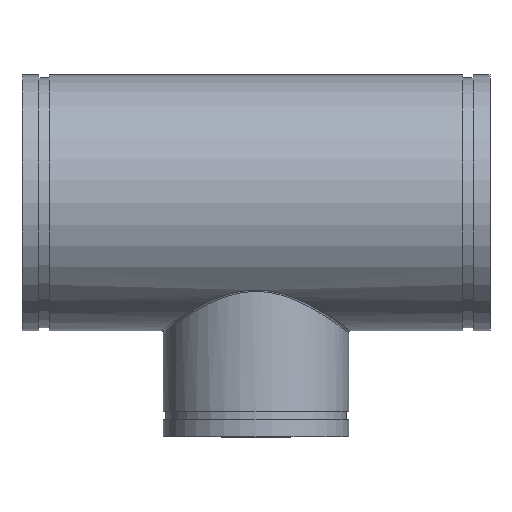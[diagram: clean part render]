
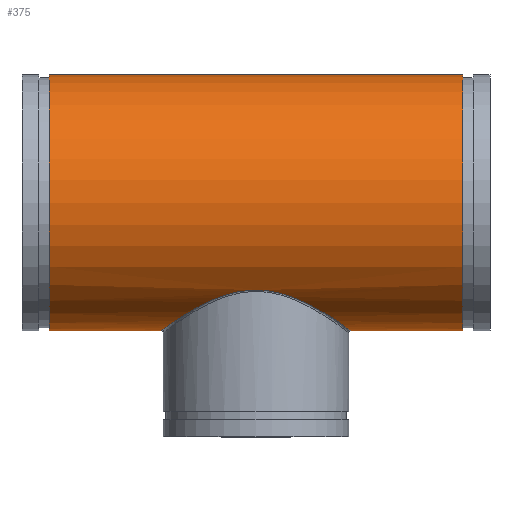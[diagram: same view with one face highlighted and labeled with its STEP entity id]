
A CAD part, top view. The second image highlights one B-rep face of the part: STEP entity #375.
In plain terms, the highlighted cylindrical face has radius 194.31 mm (diameter 388.62 mm), a full revolution.
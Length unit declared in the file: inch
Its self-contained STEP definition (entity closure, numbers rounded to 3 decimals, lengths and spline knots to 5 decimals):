
#54=FACE_BOUND('',#119,.T.);
#65=LINE('',#903,#76);
#76=VECTOR('',#483,7.65);
#87=CYLINDRICAL_SURFACE('',#415,7.65);
#98=FACE_OUTER_BOUND('',#118,.T.);
#118=EDGE_LOOP('',(#266,#267,#268,#269));
#119=EDGE_LOOP('',(#270));
#150=B_SPLINE_CURVE_WITH_KNOTS('',3,(#859,#860,#861,#862,#863,#864,#865,
#866,#867,#868,#869,#870,#871,#872,#873,#874,#875,#876,#877,#878,#879,#880,
#881,#882,#883,#884,#885,#886,#887,#888,#889,#890,#891,#892,#893,#894,#895,
#896,#897,#898),.UNSPECIFIED.,.T.,.F.,(4,1,1,1,1,1,1,1,1,1,1,1,1,1,1,1,
1,1,1,1,1,1,1,1,1,1,1,1,1,1,1,1,1,1,1,1,1,4),(-89.44633,-87.84908,
-86.25182,-83.05731,-79.8628,-76.66829,
-72.40894,-70.27926,-68.14959,-67.08475,
-66.01991,-63.89024,-61.76056,-59.63089,
-55.37154,-51.11219,-48.98252,-46.85284,
-44.72317,-42.59349,-40.46382,-38.33414,
-34.07479,-29.81544,-26.97588,-25.5561,-23.42642,
-22.36158,-21.82917,-21.29675,-17.0374,
-15.61761,-12.77805,-9.58354,-6.38902,
-3.19451,-1.59726,0.),.UNSPECIFIED.);
#154=CIRCLE('',#416,7.65);
#155=CIRCLE('',#417,7.65);
#182=VERTEX_POINT('',#811);
#185=VERTEX_POINT('',#900);
#186=VERTEX_POINT('',#902);
#219=EDGE_CURVE('',#182,#182,#150,.T.);
#220=EDGE_CURVE('',#185,#185,#154,.T.);
#221=EDGE_CURVE('',#185,#186,#65,.T.);
#222=EDGE_CURVE('',#186,#186,#155,.T.);
#266=ORIENTED_EDGE('',*,*,#220,.T.);
#267=ORIENTED_EDGE('',*,*,#221,.T.);
#268=ORIENTED_EDGE('',*,*,#222,.T.);
#269=ORIENTED_EDGE('',*,*,#221,.F.);
#270=ORIENTED_EDGE('',*,*,#219,.F.);
#375=ADVANCED_FACE('',(#98,#54),#87,.T.);
#415=AXIS2_PLACEMENT_3D('',#899,#479,#480);
#416=AXIS2_PLACEMENT_3D('',#901,#481,#482);
#417=AXIS2_PLACEMENT_3D('',#904,#484,#485);
#479=DIRECTION('center_axis',(-1.,0.,0.));
#480=DIRECTION('ref_axis',(0.,-1.,0.));
#481=DIRECTION('center_axis',(1.,0.,0.));
#482=DIRECTION('ref_axis',(0.,-1.,0.));
#483=DIRECTION('',(1.,0.,0.));
#484=DIRECTION('center_axis',(-1.,0.,0.));
#485=DIRECTION('ref_axis',(0.,-1.,0.));
#811=CARTESIAN_POINT('',(0.,-5.22916,-5.58376));
#859=CARTESIAN_POINT('Ctrl Pts',(0.,-5.22916,
-5.58376));
#860=CARTESIAN_POINT('Ctrl Pts',(0.22189,-5.22916,-5.58376));
#861=CARTESIAN_POINT('Ctrl Pts',(0.66547,-5.25683,-5.55806));
#862=CARTESIAN_POINT('Ctrl Pts',(1.52836,-5.41437,-5.40707));
#863=CARTESIAN_POINT('Ctrl Pts',(2.5256,-5.76154,-5.05005));
#864=CARTESIAN_POINT('Ctrl Pts',(3.56307,-6.27982,-4.4006));
#865=CARTESIAN_POINT('Ctrl Pts',(4.53328,-6.86146,-3.45832));
#866=CARTESIAN_POINT('Ctrl Pts',(5.18638,-7.30434,-2.38719));
#867=CARTESIAN_POINT('Ctrl Pts',(5.54249,-7.55486,-1.29954));
#868=CARTESIAN_POINT('Ctrl Pts',(5.65762,-7.63757,-0.58244));
#869=CARTESIAN_POINT('Ctrl Pts',(5.68077,-7.65413,-0.00006));
#870=CARTESIAN_POINT('Ctrl Pts',(5.65771,-7.63759,0.58205));
#871=CARTESIAN_POINT('Ctrl Pts',(5.54235,-7.55488,1.29967));
#872=CARTESIAN_POINT('Ctrl Pts',(5.27582,-7.36706,2.11454));
#873=CARTESIAN_POINT('Ctrl Pts',(4.76894,-7.02095,3.11374));
#874=CARTESIAN_POINT('Ctrl Pts',(3.89506,-6.46104,4.16472));
#875=CARTESIAN_POINT('Ctrl Pts',(2.77042,-5.86757,4.92589));
#876=CARTESIAN_POINT('Ctrl Pts',(1.7313,-5.4819,5.33976));
#877=CARTESIAN_POINT('Ctrl Pts',(0.88743,-5.27911,5.5376));
#878=CARTESIAN_POINT('Ctrl Pts',(0.00001,-5.20405,
5.60691));
#879=CARTESIAN_POINT('Ctrl Pts',(-0.88737,-5.27908,5.53762));
#880=CARTESIAN_POINT('Ctrl Pts',(-1.73125,-5.48185,5.33979));
#881=CARTESIAN_POINT('Ctrl Pts',(-2.77045,-5.86761,4.92586));
#882=CARTESIAN_POINT('Ctrl Pts',(-3.89485,-6.46078,4.16496));
#883=CARTESIAN_POINT('Ctrl Pts',(-4.82737,-7.05841,3.04364));
#884=CARTESIAN_POINT('Ctrl Pts',(-5.31255,-7.39291,2.02689));
#885=CARTESIAN_POINT('Ctrl Pts',(-5.5577,-7.56586,1.20396));
#886=CARTESIAN_POINT('Ctrl Pts',(-5.65769,-7.63757,0.58228));
#887=CARTESIAN_POINT('Ctrl Pts',(-5.6779,-7.6521,0.07273));
#888=CARTESIAN_POINT('Ctrl Pts',(-5.67206,-7.64786,-0.21824));
#889=CARTESIAN_POINT('Ctrl Pts',(-5.6292,-7.61736,-0.94505));
#890=CARTESIAN_POINT('Ctrl Pts',(-5.42588,-7.47061,-1.77115));
#891=CARTESIAN_POINT('Ctrl Pts',(-4.94423,-7.14028,-2.78413));
#892=CARTESIAN_POINT('Ctrl Pts',(-4.4042,-6.78397,-3.58365));
#893=CARTESIAN_POINT('Ctrl Pts',(-3.56308,-6.27988,-4.40065));
#894=CARTESIAN_POINT('Ctrl Pts',(-2.52556,-5.76149,-5.05004));
#895=CARTESIAN_POINT('Ctrl Pts',(-1.52838,-5.41439,-5.40708));
#896=CARTESIAN_POINT('Ctrl Pts',(-0.66546,-5.25683,-5.55805));
#897=CARTESIAN_POINT('Ctrl Pts',(-0.22189,-5.22916,-5.58376));
#898=CARTESIAN_POINT('Ctrl Pts',(0.,-5.22916,
-5.58376));
#899=CARTESIAN_POINT('Origin',(14.,0.,0.));
#900=CARTESIAN_POINT('',(-12.36,7.65,0.));
#901=CARTESIAN_POINT('Origin',(-12.36,0.,0.));
#902=CARTESIAN_POINT('',(12.36,7.65,0.));
#903=CARTESIAN_POINT('',(14.,7.65,0.));
#904=CARTESIAN_POINT('Origin',(12.36,0.,0.));
